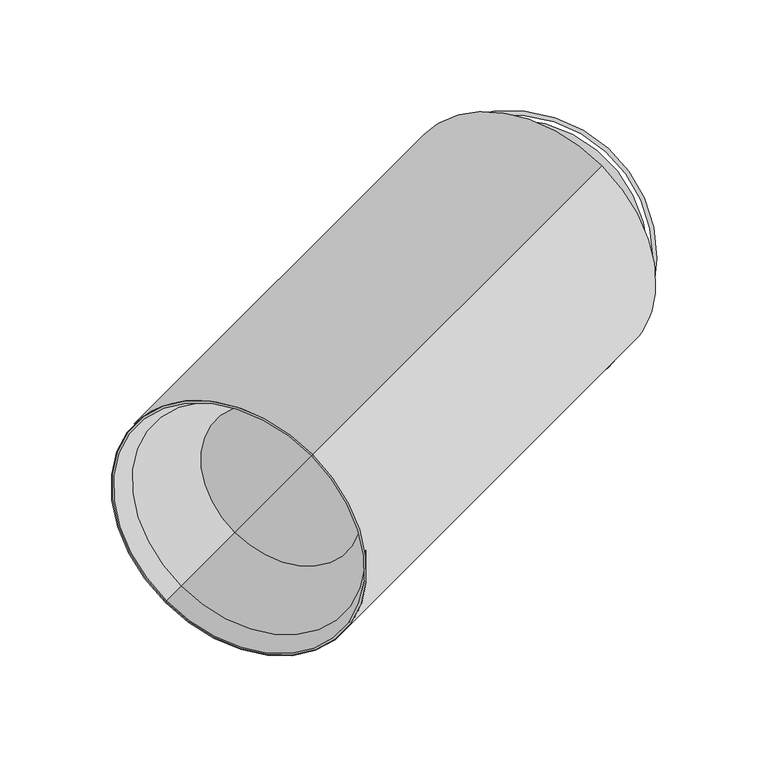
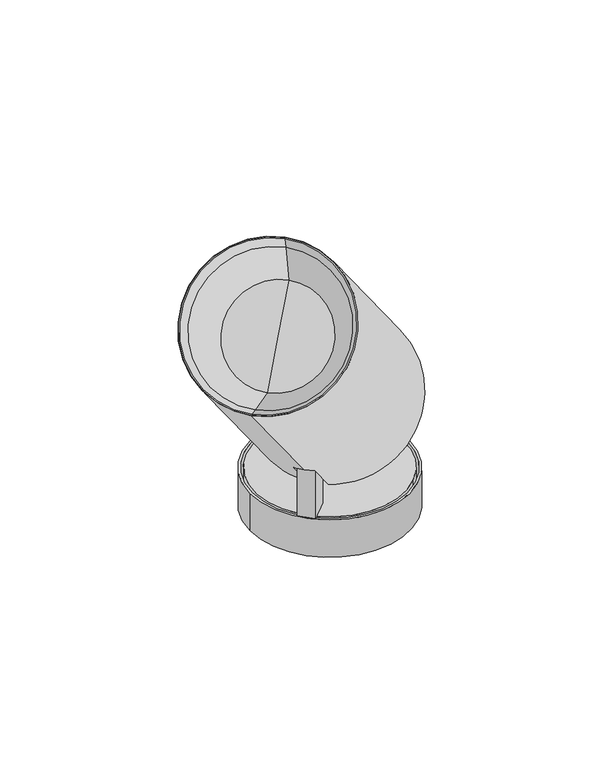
"""IFC4 building model written with IfcOpenShell, lengths in millimetres: light fixture geometry, PIPES C L : 2800 29W-830 62°."""

from ifc_helpers import new_model, si_unit, point, frame, frame_2d, origin, origin_with_axes, origin_2d, place, context, project, spatial, polyline, circle_curve, trimmed, segment, composite_curve, outline, extrude, source, transform, mapped, element, save
from ifc_brep_helpers import plane_surface, cylinder_surface, revolved_surface, advanced_brep


def light_fixture_65dafd06(model_context):
    return source(origin(), model_context, "Body", "SolidModel", [
        advanced_brep(
        [(-34.7946789, -46.1083874, 92.8492424), (-14.7946789, -26.1083874, 64.5649712), (-23.5456554, -34.8593639, 52.1892214), (-18.0456554, -29.3593639, 44.4110468), (-19.0532005, -30.366909, 42.9861629), (-44.5532005, -55.866909, 79.0486088), (-46.1083874, -34.7946789, 92.8492424), (-55.866909, -44.5532005, 79.0486088), (-30.366909, -19.0532005, 42.9861629), (-29.3593639, -18.0456554, 44.4110468), (-34.8593639, -23.5456554, 52.1892214), (-26.1083874, -14.7946789, 64.5649712), (-20.4515331, -20.4515331, 64.5649712), (-50.4515331, -50.4515331, 78.7071068), (-88.4515331, -88.4515331, 320.5376259), (-154.9515331, -154.9515331, 226.492424), (-147.7428574, -147.7428574, 223.5599433), (-86.3779561, -86.3779561, 310.343019), (41.5484669, 41.5484669, 136.6898628), (40.5484669, 40.5484669, 135.2756493), (35.0484669, 35.0484669, 143.0538239), (2.7984669, 2.7984669, 97.4454365), (-80.8262985, -80.8262985, 275.7154061), (-123.2574375, -123.2574375, 215.7087138), (-102.041868, -102.041868, 245.71206)],
        [
            (0, 1),
            (1, 2),
            (2, 3),
            (3, 4),
            (4, 5),
            (5, 0),
            (6, 7),
            (7, 8),
            (8, 9),
            (9, 10),
            (10, 11),
            (11, 6),
            (0, 6),
            (11, 12),
            (12, 1),
            (5, 13, circle_curve(frame((-17.2015331, -17.2015331, 125.7297077), z_axis=(0.5000000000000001, 0.49999999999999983, -0.7071067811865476), x_axis=(-0.49999999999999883, -0.5000000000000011, -0.7071067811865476)), 66.5)),
            (13, 7, circle_curve(frame((-17.2015331, -17.2015331, 125.7297077), z_axis=(0.5000000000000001, 0.49999999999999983, -0.7071067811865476), x_axis=(-0.49999999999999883, -0.5000000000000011, -0.7071067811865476)), 66.5)),
            (14, 15, circle_curve(frame((-121.7015331, -121.7015331, 273.515025), z_axis=(-0.5000000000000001, -0.49999999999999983, 0.7071067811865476), x_axis=(-0.49999999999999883, -0.5000000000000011, -0.7071067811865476)), 66.5)),
            (15, 16),
            (16, 17, circle_curve(frame((-117.0604068, -117.0604068, 266.9514811), z_axis=(0.5000000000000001, 0.49999999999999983, -0.7071067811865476), x_axis=(-0.49999999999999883, -0.5000000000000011, -0.7071067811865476)), 61.3649013)),
            (17, 14),
            (15, 14, circle_curve(frame((-121.7015331, -121.7015331, 273.515025), z_axis=(-0.5000000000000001, -0.49999999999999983, 0.7071067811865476), x_axis=(-0.49999999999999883, -0.5000000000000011, -0.7071067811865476)), 66.5)),
            (17, 16, circle_curve(frame((-117.0604068, -117.0604068, 266.9514811), z_axis=(0.5000000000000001, 0.49999999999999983, -0.7071067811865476), x_axis=(-0.49999999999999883, -0.5000000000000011, -0.7071067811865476)), 61.3649013)),
            (14, 18),
            (18, 8, circle_curve(frame((8.2984669, 8.2984669, 89.6672619), z_axis=(-0.5000000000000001, -0.49999999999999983, 0.7071067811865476), x_axis=(-0.49999999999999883, -0.5000000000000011, -0.7071067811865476)), 66.5)),
            (13, 15),
            (4, 18, circle_curve(frame((8.2984669, 8.2984669, 89.6672619), z_axis=(-0.5000000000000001, -0.49999999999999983, 0.7071067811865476), x_axis=(-0.49999999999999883, -0.5000000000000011, -0.7071067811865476)), 66.5)),
            (18, 19),
            (19, 9, circle_curve(frame((8.2984669, 8.2984669, 89.6672619), z_axis=(-0.5000000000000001, -0.49999999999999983, 0.7071067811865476), x_axis=(-0.49999999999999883, -0.5000000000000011, -0.7071067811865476)), 64.5)),
            (3, 19, circle_curve(frame((8.2984669, 8.2984669, 89.6672619), z_axis=(-0.5000000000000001, -0.49999999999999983, 0.7071067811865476), x_axis=(-0.49999999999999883, -0.5000000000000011, -0.7071067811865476)), 64.5)),
            (19, 20),
            (20, 10, circle_curve(frame((2.7984669, 2.7984669, 97.4454365), z_axis=(-0.5000000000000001, -0.49999999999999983, 0.7071067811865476), x_axis=(-0.49999999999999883, -0.5000000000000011, -0.7071067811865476)), 64.5)),
            (2, 20, circle_curve(frame((2.7984669, 2.7984669, 97.4454365), z_axis=(-0.5000000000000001, -0.49999999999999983, 0.7071067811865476), x_axis=(-0.49999999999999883, -0.5000000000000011, -0.7071067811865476)), 64.5)),
            (20, 21),
            (21, 12),
            (22, 23, circle_curve(frame((-102.041868, -102.041868, 245.71206), z_axis=(-0.5000000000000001, -0.49999999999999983, 0.7071067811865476), x_axis=(-0.49999999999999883, -0.5000000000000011, -0.7071067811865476)), 42.431139)),
            (23, 24),
            (24, 22),
            (23, 22, circle_curve(frame((-102.041868, -102.041868, 245.71206), z_axis=(-0.5000000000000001, -0.49999999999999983, 0.7071067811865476), x_axis=(-0.49999999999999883, -0.5000000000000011, -0.7071067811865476)), 42.431139)),
            (16, 23),
            (22, 17),
        ],
        [
            plane_surface(frame((-34.7946789, -46.1083874, 92.8492424), z_axis=(-0.7071067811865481, 0.707106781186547, 0.0), x_axis=(-0.4999999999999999, -0.4999999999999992, 0.7071067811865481))),
            plane_surface(frame((-46.1083874, -34.7946789, 92.8492424), z_axis=(0.7071067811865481, -0.707106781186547, 0.0), x_axis=(0.4999999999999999, 0.4999999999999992, -0.7071067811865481))),
            plane_surface(frame((-46.1083874, -34.7946789, 92.8492424), z_axis=(-0.49999999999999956, -0.5000000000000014, -0.707106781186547), x_axis=(0.7071067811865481, -0.707106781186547, 0.0))),
            plane_surface(frame((-58.6083874, -47.2946789, 75.1715729), z_axis=(0.5, 0.4999999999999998, -0.7071067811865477), x_axis=(0.7071067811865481, -0.707106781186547, 0.0))),
            revolved_surface(polyline([(-147.7428574, -147.7428574, 223.5599433), (-154.9515331, -154.9515331, 226.492424)]), (11.0246573, 11.0246573, 85.8118463), (0.5000000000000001, 0.49999999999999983, -0.7071067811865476)),
            cylinder_surface(frame((11.0246573, 11.0246573, 85.8118463), z_axis=(0.5000000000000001, 0.49999999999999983, -0.7071067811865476), x_axis=(-0.49999999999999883, -0.5000000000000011, -0.7071067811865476)), 66.5),
            plane_surface(frame((8.2984669, 8.2984669, 89.6672619), z_axis=(0.5000000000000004, 0.49999999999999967, -0.7071067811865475), x_axis=(-0.4999999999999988, -0.5000000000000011, -0.7071067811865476))),
            revolved_surface(polyline([(-23.951533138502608, -23.951533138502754, 44.058874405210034), (-29.45153316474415, -29.451533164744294, 51.8370490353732)]), (11.0246573, 11.0246573, 85.8118463), (0.5000000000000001, 0.49999999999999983, -0.7071067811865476)),
            plane_surface(frame((2.7984669, 2.7984669, 97.4454365), z_axis=(0.5000000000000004, 0.49999999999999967, -0.7071067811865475), x_axis=(-0.4999999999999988, -0.5000000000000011, -0.7071067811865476))),
            plane_surface(frame((-102.041868, -102.041868, 245.71206), z_axis=(-0.5000000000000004, -0.49999999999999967, 0.7071067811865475), x_axis=(-0.4999999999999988, -0.5000000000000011, -0.7071067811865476))),
            revolved_surface(polyline([(-123.2574375, -123.2574375, 215.7087138), (-147.7428574, -147.7428574, 223.5599433)]), (11.0246573, 11.0246573, 85.8118463), (0.5000000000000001, 0.49999999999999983, -0.7071067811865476)),
        ],
        [
            (0, [[1, 2, 3, 4, 5, 6]]),
            (1, [[7, 8, 9, 10, 11, 12]]),
            (2, [[13, -12, 14, 15, -1]]),
            (3, [[-13, -6, 16, 17, -7]]),
            (4, [[18, 19, 20, 21]]),
            (4, [[-19, 22, -21, 23]]),
            (5, [[-18, 24, 25, -8, -17, 26]]),
            (5, [[-22, -26, -16, -5, 27, -24]]),
            (6, [[28, 29, -9, -25]]),
            (6, [[-28, -27, -4, 30]]),
            (7, [[31, 32, -10, -29]]),
            (7, [[-31, -30, -3, 33]]),
            (8, [[34, 35, -14, -11, -32]]),
            (8, [[-34, -33, -2, -15, -35]]),
            (9, [[36, 37, 38]]),
            (9, [[-37, 39, -38]]),
            (10, [[-20, 40, -36, 41]]),
            (10, [[-23, -41, -39, -40]]),
        ],
    ),
        advanced_brep(
        [(-10.2946789, -21.6083874, 58.2010101), (-9.2946789, -20.6083874, 56.7867966), (-17.034417, -28.3481255, 45.841154), (-18.034417, -29.3481255, 47.2553676), (-20.6083874, -9.2946789, 56.7867966), (-21.6083874, -10.2946789, 58.2010101), (-29.3481255, -18.034417, 47.2553676), (-28.3481255, -17.034417, 45.841154), (-15.9515331, -15.9515331, 58.2010101), (-14.9515331, -14.9515331, 56.7867966), (7.2984669, 7.2984669, 91.0814755), (38.5452886, 38.5452886, 135.2711545), (39.5452886, 39.5452886, 133.8569409), (8.2984669, 8.2984669, 89.6672619)],
        [
            (0, 1),
            (1, 2),
            (2, 3),
            (3, 0),
            (4, 5),
            (5, 6),
            (6, 7),
            (7, 4),
            (0, 8),
            (8, 5),
            (4, 9),
            (9, 1),
            (10, 11),
            (11, 6, circle_curve(frame((7.2984669, 7.2984669, 91.0814755), z_axis=(-0.4999999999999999, -0.4999999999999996, 0.707106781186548), x_axis=(-0.4999999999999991, -0.5000000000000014, -0.7071067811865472)), 62.4936434)),
            (8, 10),
            (3, 11, circle_curve(frame((7.2984669, 7.2984669, 91.0814755), z_axis=(-0.4999999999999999, -0.4999999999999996, 0.707106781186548), x_axis=(-0.4999999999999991, -0.5000000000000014, -0.7071067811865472)), 62.4936434)),
            (11, 12),
            (12, 7, circle_curve(frame((8.2984669, 8.2984669, 89.6672619), z_axis=(-0.4999999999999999, -0.4999999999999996, 0.707106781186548), x_axis=(-0.4999999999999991, -0.5000000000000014, -0.7071067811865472)), 62.4936434)),
            (2, 12, circle_curve(frame((8.2984669, 8.2984669, 89.6672619), z_axis=(-0.4999999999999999, -0.4999999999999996, 0.707106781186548), x_axis=(-0.4999999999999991, -0.5000000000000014, -0.7071067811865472)), 62.4936434)),
            (12, 13),
            (13, 9),
        ],
        [
            plane_surface(frame((-34.7946789, -46.1083874, 92.8492424), z_axis=(-0.7071067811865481, 0.707106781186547, 0.0), x_axis=(-0.4999999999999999, -0.4999999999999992, 0.7071067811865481))),
            plane_surface(frame((-46.1083874, -34.7946789, 92.8492424), z_axis=(0.7071067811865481, -0.707106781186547, 0.0), x_axis=(0.4999999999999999, 0.4999999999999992, -0.7071067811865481))),
            plane_surface(frame((-46.1083874, -34.7946789, 92.8492424), z_axis=(-0.49999999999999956, -0.5000000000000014, -0.707106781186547), x_axis=(0.7071067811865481, -0.707106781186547, 0.0))),
            plane_surface(frame((7.2984669, 7.2984669, 91.0814755), z_axis=(-0.5000000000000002, -0.49999999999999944, 0.7071067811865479), x_axis=(-0.4999999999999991, -0.5000000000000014, -0.7071067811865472))),
            cylinder_surface(frame((11.0246573, 11.0246573, 85.8118463), z_axis=(0.4999999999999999, 0.4999999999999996, -0.707106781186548), x_axis=(-0.4999999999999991, -0.5000000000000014, -0.7071067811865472)), 62.4936434),
            plane_surface(frame((8.2984669, 8.2984669, 89.6672619), z_axis=(0.5000000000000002, 0.49999999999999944, -0.7071067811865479), x_axis=(-0.4999999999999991, -0.5000000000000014, -0.7071067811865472))),
        ],
        [
            (0, [[1, 2, 3, 4]]),
            (1, [[5, 6, 7, 8]]),
            (2, [[-1, 9, 10, -5, 11, 12]]),
            (3, [[13, 14, -6, -10, 15]]),
            (3, [[-13, -15, -9, -4, 16]]),
            (4, [[17, 18, -7, -14]]),
            (4, [[-17, -16, -3, 19]]),
            (5, [[20, 21, -11, -8, -18]]),
            (5, [[-20, -19, -2, -12, -21]]),
        ],
    ),
        advanced_brep(
        [(-88.4515331, -88.4515331, 320.5376259), (-154.9515331, -154.9515331, 226.492424), (-154.3801207, -154.3801207, 227.3005233), (-89.0229456, -89.0229456, 319.7295267), (-81.6021703, -81.6021703, 276.0323713), (-123.4815658, -123.4815658, 216.8059622), (-102.541868, -102.541868, 246.4191668), (-87.0630923, -87.0630923, 310.0940352), (-147.5667993, -147.5667993, 224.5288722), (-86.3779561, -86.3779561, 310.343019), (-147.7428574, -147.7428574, 223.5599433), (-80.8262985, -80.8262985, 275.7154061), (-123.2574375, -123.2574375, 215.7087138), (-102.041868, -102.041868, 245.71206)],
        [
            (0, 1, circle_curve(frame((-121.7015331, -121.7015331, 273.515025), z_axis=(-0.4999999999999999, -0.4999999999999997, 0.7071067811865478), x_axis=(-0.49999999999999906, -0.5000000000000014, -0.7071067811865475)), 66.5)),
            (1, 2),
            (2, 3, circle_curve(frame((-121.7015331, -121.7015331, 273.515025), z_axis=(0.4999999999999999, 0.4999999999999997, -0.7071067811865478), x_axis=(-0.49999999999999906, -0.5000000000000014, -0.7071067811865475)), 65.357175)),
            (3, 0),
            (1, 0, circle_curve(frame((-121.7015331, -121.7015331, 273.515025), z_axis=(-0.4999999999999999, -0.4999999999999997, 0.7071067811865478), x_axis=(-0.49999999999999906, -0.5000000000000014, -0.7071067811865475)), 66.5)),
            (3, 2, circle_curve(frame((-121.7015331, -121.7015331, 273.515025), z_axis=(0.4999999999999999, 0.4999999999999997, -0.7071067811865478), x_axis=(-0.49999999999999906, -0.5000000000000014, -0.7071067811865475)), 65.357175)),
            (4, 5, circle_curve(frame((-102.541868, -102.541868, 246.4191668), z_axis=(-0.4999999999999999, -0.4999999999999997, 0.7071067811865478), x_axis=(-0.49999999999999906, -0.5000000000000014, -0.7071067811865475)), 41.8793955)),
            (5, 6),
            (6, 4),
            (5, 4, circle_curve(frame((-102.541868, -102.541868, 246.4191668), z_axis=(-0.4999999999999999, -0.4999999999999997, 0.7071067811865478), x_axis=(-0.49999999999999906, -0.5000000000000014, -0.7071067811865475)), 41.8793955)),
            (7, 8, circle_curve(frame((-117.3149458, -117.3149458, 267.3114537), z_axis=(-0.4999999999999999, -0.4999999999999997, 0.7071067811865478), x_axis=(-0.49999999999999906, -0.5000000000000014, -0.7071067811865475)), 60.5037069)),
            (8, 5),
            (4, 7),
            (8, 7, circle_curve(frame((-117.3149458, -117.3149458, 267.3114537), z_axis=(-0.4999999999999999, -0.4999999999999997, 0.7071067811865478), x_axis=(-0.49999999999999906, -0.5000000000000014, -0.7071067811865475)), 60.5037069)),
            (9, 10, circle_curve(frame((-117.0604068, -117.0604068, 266.9514811), z_axis=(-0.4999999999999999, -0.4999999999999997, 0.7071067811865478), x_axis=(-0.49999999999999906, -0.5000000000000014, -0.7071067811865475)), 61.3649013)),
            (10, 1),
            (0, 9),
            (10, 9, circle_curve(frame((-117.0604068, -117.0604068, 266.9514811), z_axis=(-0.4999999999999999, -0.4999999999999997, 0.7071067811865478), x_axis=(-0.49999999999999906, -0.5000000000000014, -0.7071067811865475)), 61.3649013)),
            (11, 12, circle_curve(frame((-102.041868, -102.041868, 245.71206), z_axis=(-0.4999999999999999, -0.4999999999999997, 0.7071067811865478), x_axis=(-0.49999999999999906, -0.5000000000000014, -0.7071067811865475)), 42.431139)),
            (12, 10),
            (9, 11),
            (12, 11, circle_curve(frame((-102.041868, -102.041868, 245.71206), z_axis=(-0.4999999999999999, -0.4999999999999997, 0.7071067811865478), x_axis=(-0.49999999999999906, -0.5000000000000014, -0.7071067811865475)), 42.431139)),
            (13, 12),
            (11, 13),
            (2, 8),
            (7, 3),
        ],
        [
            plane_surface(frame((-121.7015331, -121.7015331, 273.515025), z_axis=(-0.5000000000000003, -0.49999999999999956, 0.7071067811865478), x_axis=(-0.49999999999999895, -0.5000000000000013, -0.7071067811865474))),
            plane_surface(frame((-102.541868, -102.541868, 246.4191668), z_axis=(-0.5000000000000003, -0.49999999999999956, 0.7071067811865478), x_axis=(-0.49999999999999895, -0.5000000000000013, -0.7071067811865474))),
            revolved_surface(polyline([(-123.4815658, -123.4815658, 216.8059622), (-147.5667993, -147.5667993, 224.5288722)]), (11.0246573, 11.0246573, 85.8118463), (0.5, 0.49999999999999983, -0.7071067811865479)),
            revolved_surface(polyline([(-154.9515331, -154.9515331, 226.492424), (-147.7428574, -147.7428574, 223.5599433)]), (11.0246573, 11.0246573, 85.8118463), (0.5, 0.49999999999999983, -0.7071067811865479)),
            revolved_surface(polyline([(-147.7428574, -147.7428574, 223.5599433), (-123.2574375, -123.2574375, 215.7087138)]), (11.0246573, 11.0246573, 85.8118463), (0.5, 0.49999999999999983, -0.7071067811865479)),
            plane_surface(frame((-102.041868, -102.041868, 245.71206), z_axis=(0.5000000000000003, 0.49999999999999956, -0.7071067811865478), x_axis=(-0.49999999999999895, -0.5000000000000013, -0.7071067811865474))),
            revolved_surface(polyline([(-147.5667993, -147.5667993, 224.5288722), (-154.3801207, -154.3801207, 227.3005233)]), (11.0246573, 11.0246573, 85.8118463), (0.5, 0.49999999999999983, -0.7071067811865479)),
        ],
        [
            (0, [[1, 2, 3, 4]]),
            (0, [[5, -4, 6, -2]]),
            (1, [[7, 8, 9]]),
            (1, [[10, -9, -8]]),
            (2, [[11, 12, -7, 13]]),
            (2, [[14, -13, -10, -12]]),
            (3, [[15, 16, -1, 17]]),
            (3, [[18, -17, -5, -16]]),
            (4, [[19, 20, -15, 21]]),
            (4, [[22, -21, -18, -20]]),
            (5, [[23, -19, 24]]),
            (5, [[-24, -22, -23]]),
            (6, [[-3, 25, -11, 26]]),
            (6, [[-6, -26, -14, -25]]),
        ],
    ),
        extrude(outline(composite_curve([segment(trimmed(circle_curve(origin_2d(), 62.5), [point((-44.1941738, 44.1941738))], [point((44.1941738, -44.1941738))], False, "CARTESIAN"), True, "CONTINUOUS"), segment(trimmed(circle_curve(origin_2d(), 62.5), [point((44.1941738, -44.1941738))], [point((-44.1941738, 44.1941738))], False, "CARTESIAN"), True, "CONTINUOUS")], self_intersect=False)), origin_with_axes(), (0.0, 0.0, 1.0), 33.0),
        extrude(outline(composite_curve([segment(trimmed(circle_curve(frame_2d((0.0, -8.5499681)), 8.5499681), [point((-0.2983896, -17.0947277))], [point((-8.4667604, -9.7398937))], False, "CARTESIAN"), True, "CONTINUOUS"), segment(polyline([(-8.4667604, -9.7398937), (-9.7509831, -0.6021745), (-7.5438399, -0.6021745), (-7.5438399, 1.8978255), (46.2490169, 1.8978255), (46.2490169, -17.0947277), (-0.2983896, -17.0947277)]), True, "CONTINUOUS")], self_intersect=False)), frame((-40.0237814, -49.9232763, 79.2490169), z_axis=(-0.7071067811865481, 0.707106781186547, 0.0), x_axis=(0.0, 0.0, -1.0)), (0.0, 0.0, 1.0), 14.0),
        extrude(outline(composite_curve([segment(trimmed(circle_curve(origin_2d(), 66.5), [point((-66.5, 0.0))], [point((66.5, 0.0))], False, "CARTESIAN"), True, "CONTINUOUS"), segment(trimmed(circle_curve(origin_2d(), 66.5), [point((66.5, 0.0))], [point((-66.5, 0.0))], False, "CARTESIAN"), True, "CONTINUOUS")], self_intersect=False), holes=[composite_curve([segment(trimmed(circle_curve(origin_2d(), 64.5), [point((-64.5, 0.0))], [point((64.5, 0.0))], True, "CARTESIAN"), True, "CONTINUOUS"), segment(trimmed(circle_curve(origin_2d(), 64.5), [point((64.5, 0.0))], [point((-64.5, 0.0))], True, "CARTESIAN"), True, "CONTINUOUS")], self_intersect=False)]), origin_with_axes(), (0.0, 0.0, 1.0), 33.0),
    ])


if __name__ == "__main__":
    model = new_model("IFC4")
    model_context = context("Model", 3, world=origin())
    ifc_project = project(units=[si_unit("LENGTHUNIT", "METRE", prefix="MILLI")], contexts=[model_context])
    site = spatial("IfcSite", under=ifc_project)
    building = spatial("IfcBuilding", under=site)
    placement = place(None, origin())
    light_fixture_shape = light_fixture_65dafd06(model_context)
    element("IfcLightFixture", 1, ObjectType="PIPES C L : 2800 29W-830 62°", at=placement, inside=building, context=model_context, shape_type="MappedRepresentation", body=[
        mapped(light_fixture_shape, transform((0.0, 0.0, 0.0), x_axis=(1.0, 0.0, 0.0), y_axis=(0.0, 1.0, 0.0), z_axis=(0.0, 0.0, 1.0))),
    ])
    save(model, "model.ifc")
